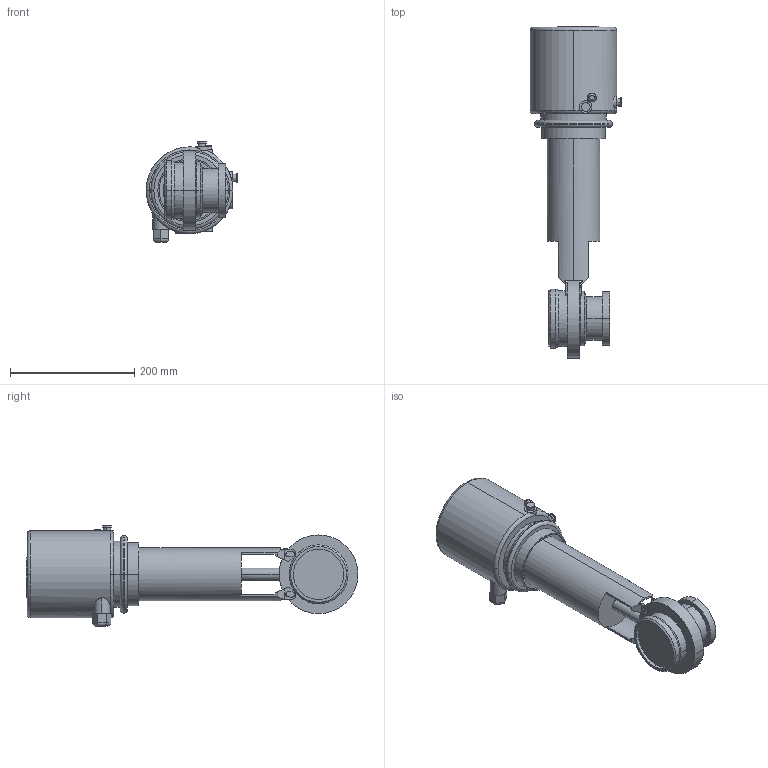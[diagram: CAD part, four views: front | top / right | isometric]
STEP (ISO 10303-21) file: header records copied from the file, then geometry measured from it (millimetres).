
FILE_DESCRIPTION(('Creo Elements/Direct Modeling STEP Export'),'2;1');
FILE_NAME('SV1-65-CU4-1K2G.stp','2014-07-09T15:40:44',(''),(''),'Creo Elements/Direct Modeling STEP processor for AP214 (Solid Model)','Creo Elements/Direct Modeling 17.0D 15-Jul-2011 (C) Parametric Technology GmbH','');
FILE_SCHEMA(('AUTOMOTIVE_DESIGN { 1 0 10303 214 1 1 1 1 }'));
Length unit declared in the file: millimetre
Products named in the file (3): SV1-65-FZ-1K2G; CU4-T-SPX_logo; SV1-65-CU4-1K2G
Assembly tree (2 placements, depth 2):
  SV1-65-CU4-1K2G
    CU4-T-SPX_logo
    SV1-65-FZ-1K2G
Bounding box: 148 x 534.93 x 161.4 mm (x, y, z)
Volume: 4166180.5 mm3; surface area: 250367 mm2
Topology: 2 solids, 2 shells, 253 faces, 653 edges, 421 vertices
Faces by surface type: plane 114, cylinder 86, extrusion 33, torus 14, cone 6
Entity records: 11043 total; most frequent: CARTESIAN_POINT 5176, ORIENTED_EDGE 1306, DIRECTION 1052, EDGE_CURVE 653, VERTEX_POINT 421, AXIS2_PLACEMENT_3D 361, VECTOR 330, LINE 297
